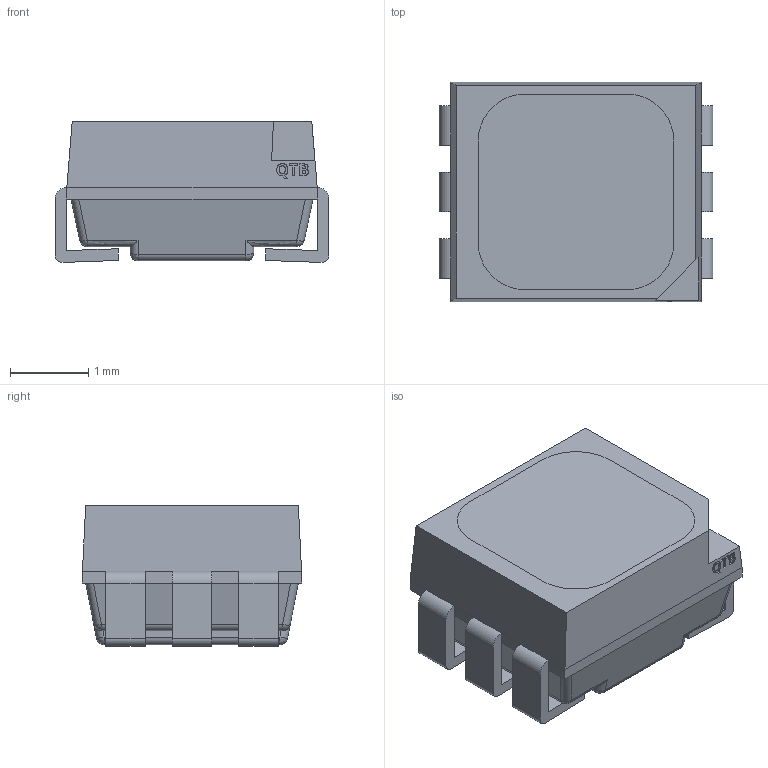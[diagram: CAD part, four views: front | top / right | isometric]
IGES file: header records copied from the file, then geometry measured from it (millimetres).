
Start section: Data from Parasolid IGES Translator 23.1.110, Copyright(c) 2006 Siemens PLM Software. All Rights Reserved.
Global section: file name: 5fab12aad744430f5427558c.iges; native system: By Siemens PLM Incorporated; preprocessor: XPlus GENERIC/IGES 23.1.110; author: Noname; organization: Noname; date: 20201110.222234; units: metre
Bounding box: 3.5 x 2.8 x 1.8 mm (x, y, z)
Surface area: 89.5 mm2 (no closed solid volume)
Topology: 0 solids, 0 shells, 206 faces, 1233 edges, 1216 vertices
Faces by surface type: extrusion 158, revolution 48
